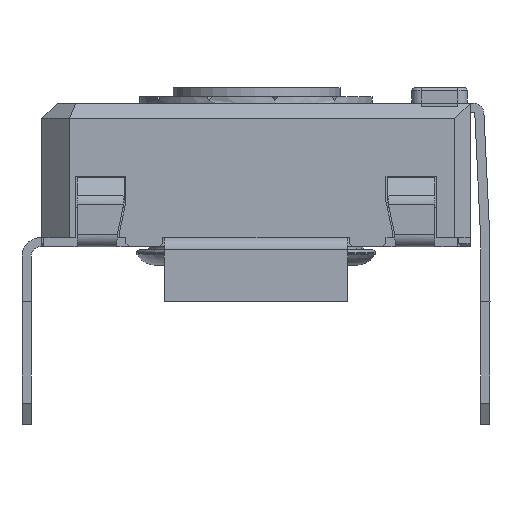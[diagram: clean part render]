
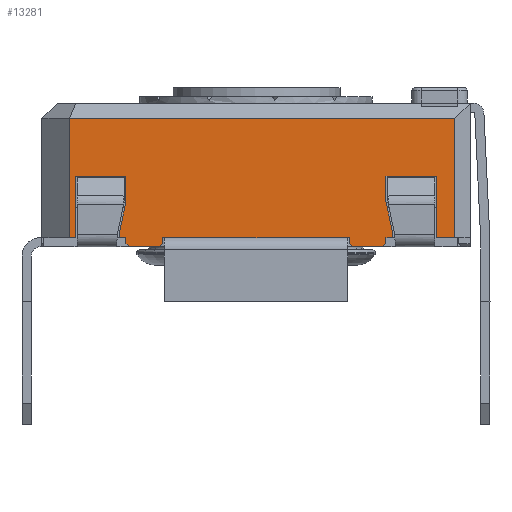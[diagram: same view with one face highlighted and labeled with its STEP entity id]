
A CAD part, left-side view. The second image highlights one B-rep face of the part: STEP entity #13281.
In plain terms, the highlighted planar face has unit normal (-1, 0, 0).
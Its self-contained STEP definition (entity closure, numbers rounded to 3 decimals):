
#1036=FACE_OUTER_BOUND('',#1729,.T.);
#1729=EDGE_LOOP('',(#10608,#10609,#10610,#10611,#10612,#10613,#10614,#10615,
#10616,#10617,#10618,#10619,#10620,#10621,#10622,#10623,#10624,#10625,#10626,
#10627,#10628,#10629,#10630,#10631,#10632,#10633,#10634,#10635));
#2111=LINE('',#18469,#3639);
#2116=LINE('',#18479,#3644);
#2121=LINE('',#18489,#3649);
#2792=LINE('',#20416,#4320);
#2797=LINE('',#20425,#4325);
#2800=LINE('',#20431,#4328);
#2804=LINE('',#20438,#4332);
#2828=LINE('',#20486,#4356);
#2831=LINE('',#20492,#4359);
#2836=LINE('',#20502,#4364);
#2839=LINE('',#20508,#4367);
#2842=LINE('',#20514,#4370);
#2860=LINE('',#20549,#4388);
#2872=LINE('',#20571,#4400);
#2875=LINE('',#20577,#4403);
#2912=LINE('',#20711,#4440);
#2920=LINE('',#20725,#4448);
#2929=LINE('',#20743,#4457);
#2934=LINE('',#20753,#4462);
#2936=LINE('',#20756,#4464);
#3058=LINE('',#21060,#4586);
#3060=LINE('',#21065,#4588);
#3063=LINE('',#21069,#4591);
#3065=LINE('',#21073,#4593);
#3068=LINE('',#21081,#4596);
#3069=LINE('',#21083,#4597);
#3070=LINE('',#21084,#4598);
#3071=LINE('',#21085,#4599);
#3639=VECTOR('',#14796,10.);
#3644=VECTOR('',#14801,10.);
#3649=VECTOR('',#14806,10.);
#4320=VECTOR('',#16341,10.);
#4325=VECTOR('',#16348,10.);
#4328=VECTOR('',#16353,10.);
#4332=VECTOR('',#16359,10.);
#4356=VECTOR('',#16403,10.);
#4359=VECTOR('',#16408,10.);
#4364=VECTOR('',#16415,10.);
#4367=VECTOR('',#16420,10.);
#4370=VECTOR('',#16425,10.);
#4388=VECTOR('',#16445,10.);
#4400=VECTOR('',#16459,10.);
#4403=VECTOR('',#16464,10.);
#4440=VECTOR('',#16545,10.);
#4448=VECTOR('',#16555,10.);
#4457=VECTOR('',#16566,10.);
#4462=VECTOR('',#16573,10.);
#4464=VECTOR('',#16577,10.);
#4586=VECTOR('',#16857,10.);
#4588=VECTOR('',#16861,10.);
#4591=VECTOR('',#16866,10.);
#4593=VECTOR('',#16872,10.);
#4596=VECTOR('',#16883,10.);
#4597=VECTOR('',#16884,10.);
#4598=VECTOR('',#16885,10.);
#4599=VECTOR('',#16886,10.);
#5157=VERTEX_POINT('',#18466);
#5158=VERTEX_POINT('',#18468);
#5162=VERTEX_POINT('',#18476);
#5163=VERTEX_POINT('',#18478);
#5167=VERTEX_POINT('',#18486);
#5168=VERTEX_POINT('',#18488);
#5739=VERTEX_POINT('',#20413);
#5740=VERTEX_POINT('',#20415);
#5744=VERTEX_POINT('',#20428);
#5747=VERTEX_POINT('',#20436);
#5760=VERTEX_POINT('',#20483);
#5762=VERTEX_POINT('',#20489);
#5766=VERTEX_POINT('',#20499);
#5768=VERTEX_POINT('',#20505);
#5771=VERTEX_POINT('',#20512);
#5787=VERTEX_POINT('',#20547);
#5796=VERTEX_POINT('',#20569);
#5798=VERTEX_POINT('',#20575);
#5825=VERTEX_POINT('',#20709);
#5830=VERTEX_POINT('',#20723);
#5837=VERTEX_POINT('',#20740);
#5841=VERTEX_POINT('',#20750);
#5915=VERTEX_POINT('',#21057);
#5916=VERTEX_POINT('',#21059);
#5917=VERTEX_POINT('',#21063);
#5918=VERTEX_POINT('',#21064);
#5919=VERTEX_POINT('',#21080);
#5920=VERTEX_POINT('',#21082);
#6427=EDGE_CURVE('',#5158,#5157,#2111,.T.);
#6432=EDGE_CURVE('',#5163,#5162,#2116,.T.);
#6437=EDGE_CURVE('',#5168,#5167,#2121,.T.);
#7297=EDGE_CURVE('',#5740,#5739,#2792,.T.);
#7302=EDGE_CURVE('',#5739,#5168,#2797,.T.);
#7305=EDGE_CURVE('',#5167,#5744,#2800,.T.);
#7309=EDGE_CURVE('',#5747,#5744,#2804,.T.);
#7334=EDGE_CURVE('',#5157,#5760,#2828,.T.);
#7337=EDGE_CURVE('',#5760,#5762,#2831,.T.);
#7342=EDGE_CURVE('',#5762,#5766,#2836,.T.);
#7345=EDGE_CURVE('',#5766,#5768,#2839,.T.);
#7348=EDGE_CURVE('',#5768,#5771,#2842,.T.);
#7366=EDGE_CURVE('',#5771,#5787,#2860,.T.);
#7378=EDGE_CURVE('',#5796,#5787,#2872,.T.);
#7381=EDGE_CURVE('',#5798,#5796,#2875,.T.);
#7430=EDGE_CURVE('',#5825,#5798,#2912,.T.);
#7438=EDGE_CURVE('',#5825,#5830,#2920,.T.);
#7447=EDGE_CURVE('',#5830,#5837,#2929,.T.);
#7452=EDGE_CURVE('',#5837,#5841,#2934,.T.);
#7454=EDGE_CURVE('',#5841,#5740,#2936,.T.);
#7592=EDGE_CURVE('',#5915,#5916,#3058,.T.);
#7594=EDGE_CURVE('',#5917,#5918,#3060,.T.);
#7597=EDGE_CURVE('',#5158,#5915,#3063,.T.);
#7599=EDGE_CURVE('',#5162,#5918,#3065,.T.);
#7602=EDGE_CURVE('',#5747,#5919,#3068,.T.);
#7603=EDGE_CURVE('',#5920,#5919,#3069,.T.);
#7604=EDGE_CURVE('',#5163,#5920,#3070,.T.);
#7605=EDGE_CURVE('',#5917,#5916,#3071,.T.);
#10608=ORIENTED_EDGE('',*,*,#7302,.T.);
#10609=ORIENTED_EDGE('',*,*,#6437,.T.);
#10610=ORIENTED_EDGE('',*,*,#7305,.T.);
#10611=ORIENTED_EDGE('',*,*,#7309,.F.);
#10612=ORIENTED_EDGE('',*,*,#7602,.T.);
#10613=ORIENTED_EDGE('',*,*,#7603,.F.);
#10614=ORIENTED_EDGE('',*,*,#7604,.F.);
#10615=ORIENTED_EDGE('',*,*,#6432,.T.);
#10616=ORIENTED_EDGE('',*,*,#7599,.T.);
#10617=ORIENTED_EDGE('',*,*,#7594,.F.);
#10618=ORIENTED_EDGE('',*,*,#7605,.T.);
#10619=ORIENTED_EDGE('',*,*,#7592,.F.);
#10620=ORIENTED_EDGE('',*,*,#7597,.F.);
#10621=ORIENTED_EDGE('',*,*,#6427,.T.);
#10622=ORIENTED_EDGE('',*,*,#7334,.T.);
#10623=ORIENTED_EDGE('',*,*,#7337,.T.);
#10624=ORIENTED_EDGE('',*,*,#7342,.T.);
#10625=ORIENTED_EDGE('',*,*,#7345,.T.);
#10626=ORIENTED_EDGE('',*,*,#7348,.T.);
#10627=ORIENTED_EDGE('',*,*,#7366,.T.);
#10628=ORIENTED_EDGE('',*,*,#7378,.F.);
#10629=ORIENTED_EDGE('',*,*,#7381,.F.);
#10630=ORIENTED_EDGE('',*,*,#7430,.F.);
#10631=ORIENTED_EDGE('',*,*,#7438,.T.);
#10632=ORIENTED_EDGE('',*,*,#7447,.T.);
#10633=ORIENTED_EDGE('',*,*,#7452,.T.);
#10634=ORIENTED_EDGE('',*,*,#7454,.T.);
#10635=ORIENTED_EDGE('',*,*,#7297,.T.);
#12436=PLANE('',#14176);
#13281=ADVANCED_FACE('',(#1036),#12436,.T.);
#14176=AXIS2_PLACEMENT_3D('',#21079,#16881,#16882);
#14796=DIRECTION('',(0.,-1.,0.));
#14801=DIRECTION('',(0.,-1.,0.));
#14806=DIRECTION('',(0.,-1.,0.));
#16341=DIRECTION('',(0.,0.208,-0.978));
#16348=DIRECTION('',(0.,0.,-1.));
#16353=DIRECTION('',(0.,0.,-1.));
#16359=DIRECTION('',(0.,0.707,0.707));
#16403=DIRECTION('',(0.,0.,1.));
#16408=DIRECTION('',(0.,0.208,0.978));
#16415=DIRECTION('',(0.,0.,1.));
#16420=DIRECTION('',(0.,-1.,0.));
#16425=DIRECTION('',(0.,0.,-1.));
#16445=DIRECTION('',(0.,-1.,0.));
#16459=DIRECTION('',(0.,0.,-1.));
#16464=DIRECTION('',(0.,-1.,0.));
#16545=DIRECTION('',(0.,0.,1.));
#16555=DIRECTION('',(0.,-1.,0.));
#16566=DIRECTION('',(0.,0.,1.));
#16573=DIRECTION('',(0.,-1.,0.));
#16577=DIRECTION('',(0.,0.,-1.));
#16857=DIRECTION('',(0.,0.707,-0.707));
#16861=DIRECTION('',(0.,0.707,0.707));
#16866=DIRECTION('',(0.,0.,-1.));
#16872=DIRECTION('',(0.,0.,-1.));
#16881=DIRECTION('center_axis',(-1.,0.,0.));
#16882=DIRECTION('ref_axis',(0.,0.,1.));
#16883=DIRECTION('',(0.,-1.,0.));
#16884=DIRECTION('',(0.,0.707,-0.707));
#16885=DIRECTION('',(0.,0.,-1.));
#16886=DIRECTION('',(0.,-1.,0.));
#18466=CARTESIAN_POINT('',(-14.467,-7.348,0.));
#18468=CARTESIAN_POINT('',(-14.467,-7.148,0.));
#18469=CARTESIAN_POINT('',(-14.467,4.102,0.));
#18476=CARTESIAN_POINT('',(-14.467,-5.948,0.));
#18478=CARTESIAN_POINT('',(-14.467,0.152,0.));
#18479=CARTESIAN_POINT('',(-14.467,4.102,0.));
#18486=CARTESIAN_POINT('',(-14.467,1.352,0.));
#18488=CARTESIAN_POINT('',(-14.467,1.552,0.));
#18489=CARTESIAN_POINT('',(-14.467,4.102,0.));
#20413=CARTESIAN_POINT('',(-14.467,1.552,0.235));
#20415=CARTESIAN_POINT('',(-14.467,1.352,1.176));
#20416=CARTESIAN_POINT('',(-14.467,1.228,1.757));
#20425=CARTESIAN_POINT('',(-14.467,1.552,0.));
#20428=CARTESIAN_POINT('',(-14.467,1.352,-0.2));
#20431=CARTESIAN_POINT('',(-14.467,1.352,0.));
#20436=CARTESIAN_POINT('',(-14.467,1.252,-0.3));
#20438=CARTESIAN_POINT('',(-14.467,-1.436,-2.988));
#20483=CARTESIAN_POINT('',(-14.467,-7.348,0.235));
#20486=CARTESIAN_POINT('',(-14.467,-7.348,0.118));
#20489=CARTESIAN_POINT('',(-14.467,-7.148,1.176));
#20492=CARTESIAN_POINT('',(-14.467,-7.453,-0.254));
#20499=CARTESIAN_POINT('',(-14.467,-7.148,2.));
#20502=CARTESIAN_POINT('',(-14.467,-7.148,0.588));
#20505=CARTESIAN_POINT('',(-14.467,-8.798,2.));
#20508=CARTESIAN_POINT('',(-14.467,-8.523,2.));
#20512=CARTESIAN_POINT('',(-14.467,-8.798,0.));
#20514=CARTESIAN_POINT('',(-14.467,-8.798,0.));
#20547=CARTESIAN_POINT('',(-14.467,-9.398,0.));
#20549=CARTESIAN_POINT('',(-14.467,-9.595,0.));
#20569=CARTESIAN_POINT('',(-14.467,-9.398,3.9));
#20571=CARTESIAN_POINT('',(-14.467,-9.398,0.));
#20575=CARTESIAN_POINT('',(-14.467,3.202,3.9));
#20577=CARTESIAN_POINT('',(-14.467,-6.398,3.9));
#20709=CARTESIAN_POINT('',(-14.467,3.202,0.));
#20711=CARTESIAN_POINT('',(-14.467,3.202,0.));
#20723=CARTESIAN_POINT('',(-14.467,3.002,0.));
#20725=CARTESIAN_POINT('',(-14.467,-2.985,0.));
#20740=CARTESIAN_POINT('',(-14.467,3.002,2.));
#20743=CARTESIAN_POINT('',(-14.467,3.002,0.));
#20750=CARTESIAN_POINT('',(-14.467,1.352,2.));
#20753=CARTESIAN_POINT('',(-14.467,-3.448,2.));
#20756=CARTESIAN_POINT('',(-14.467,1.352,1.));
#21057=CARTESIAN_POINT('',(-14.467,-7.148,-0.2));
#21059=CARTESIAN_POINT('',(-14.467,-7.048,-0.3));
#21060=CARTESIAN_POINT('',(-14.467,-7.861,0.513));
#21063=CARTESIAN_POINT('',(-14.467,-6.048,-0.3));
#21064=CARTESIAN_POINT('',(-14.467,-5.948,-0.2));
#21065=CARTESIAN_POINT('',(-14.467,-6.911,-1.163));
#21069=CARTESIAN_POINT('',(-14.467,-7.148,0.));
#21073=CARTESIAN_POINT('',(-14.467,-5.948,0.));
#21079=CARTESIAN_POINT('Origin',(-14.467,-9.898,0.));
#21080=CARTESIAN_POINT('',(-14.467,0.252,-0.3));
#21081=CARTESIAN_POINT('',(-14.467,0.152,-0.3));
#21082=CARTESIAN_POINT('',(-14.467,0.152,-0.2));
#21083=CARTESIAN_POINT('',(-14.467,-2.386,2.338));
#21084=CARTESIAN_POINT('',(-14.467,0.152,0.));
#21085=CARTESIAN_POINT('',(-14.467,-7.148,-0.3));
